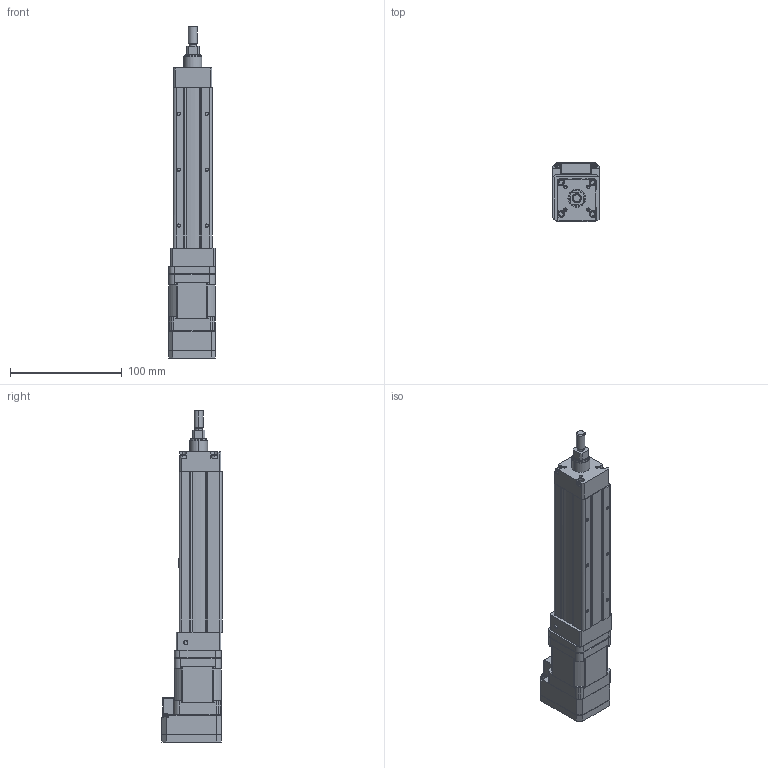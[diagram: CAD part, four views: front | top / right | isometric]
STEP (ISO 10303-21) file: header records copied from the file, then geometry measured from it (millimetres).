
FILE_DESCRIPTION (( 'STEP AP214' ), '1' );
FILE_NAME ('RD-35-12-050-17L30.STEP', '2015-01-08T16:24:17', ( '' ), ( '' ), 'SwSTEP 2.0', 'SolidWorks 2015', '' );
FILE_SCHEMA (( 'AUTOMOTIVE_DESIGN' ));
Length unit declared in the file: millimetre
Products named in the file (4): RD-35-12-050; CT35-BKT-NEMA17; CM1-X-17L30-NE-RENDER; RD-35-12-050-17L30
Assembly tree (3 placements, depth 2):
  RD-35-12-050-17L30
    CM1-X-17L30-NE-RENDER
    CT35-BKT-NEMA17
    RD-35-12-050
Bounding box: 42 x 53.76 x 296.8 mm (x, y, z)
Volume: 375098.6 mm3; surface area: 69580.1 mm2
Topology: 4 solids, 4 shells, 1185 faces, 3188 edges, 2040 vertices
Faces by surface type: plane 750, cylinder 330, cone 101, bspline 4
Entity records: 43015 total; most frequent: CARTESIAN_POINT 6705, ORIENTED_EDGE 6336, DIRECTION 6297, EDGE_CURVE 3168, VECTOR 2373, LINE 2373, VERTEX_POINT 2040, AXIS2_PLACEMENT_3D 1962
